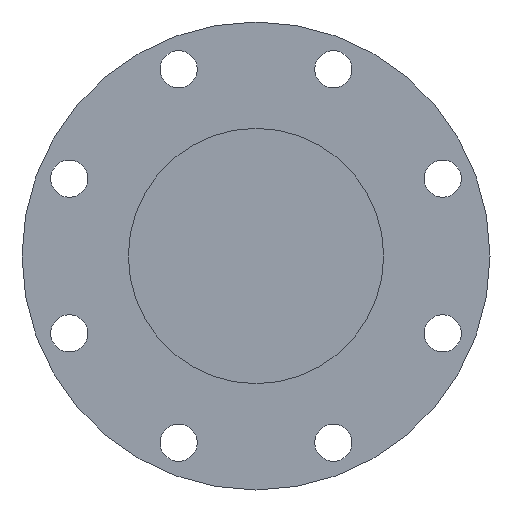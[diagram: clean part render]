
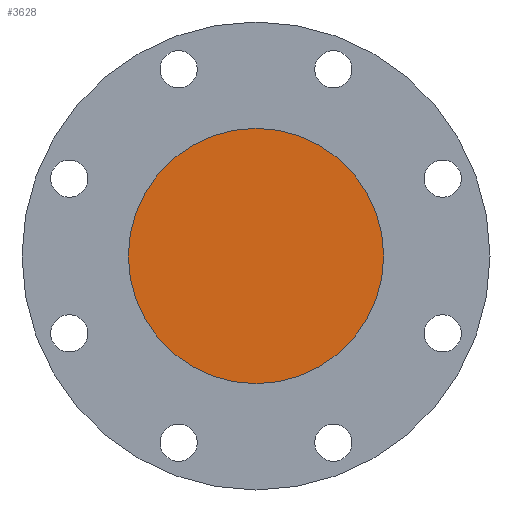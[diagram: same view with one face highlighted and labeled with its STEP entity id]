
A CAD part, left-side view. The second image highlights one B-rep face of the part: STEP entity #3628.
In plain terms, the highlighted planar face has unit normal (-1, 0, 0).
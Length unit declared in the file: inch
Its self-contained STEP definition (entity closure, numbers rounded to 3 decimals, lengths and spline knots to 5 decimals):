
#143 = FACE_OUTER_BOUND ( 'NONE', #6027, .T. ) ;
#728 = CARTESIAN_POINT ( 'NONE',  ( -5.06153, 3.13218, 0. ) ) ;
#961 = AXIS2_PLACEMENT_3D ( 'NONE', #4505, #9942, #1025 ) ;
#1025 = DIRECTION ( 'NONE',  ( 0., 0., -1. ) ) ;
#1772 = CARTESIAN_POINT ( 'NONE',  ( -5.06153, 0., 0. ) ) ;
#3628 = ADVANCED_FACE ( 'NONE', ( #143 ), #6161, .F. ) ;
#3760 = CARTESIAN_POINT ( 'NONE',  ( -5.06153, 3., 0. ) ) ;
#4029 = EDGE_CURVE ( 'NONE', #5497, #10668, #9753, .T. ) ;
#4505 = CARTESIAN_POINT ( 'NONE',  ( -5.06153, 0., 0. ) ) ;
#5253 = AXIS2_PLACEMENT_3D ( 'NONE', #1772, #9900, #7104 ) ;
#5497 = VERTEX_POINT ( 'NONE', #3760 ) ;
#5872 = CIRCLE ( 'NONE', #5253, 3. ) ;
#5887 = ORIENTED_EDGE ( 'NONE', *, *, #4029, .T. ) ;
#6027 = EDGE_LOOP ( 'NONE', ( #10915, #5887 ) ) ;
#6161 = PLANE ( 'NONE',  #9640 ) ;
#7062 = DIRECTION ( 'NONE',  ( 0., 0., -1. ) ) ;
#7104 = DIRECTION ( 'NONE',  ( 0., 0., -1. ) ) ;
#8734 = DIRECTION ( 'NONE',  ( 1., 0., 0. ) ) ;
#9640 = AXIS2_PLACEMENT_3D ( 'NONE', #728, #8734, #7062 ) ;
#9668 = CARTESIAN_POINT ( 'NONE',  ( -5.06153, -3., 0. ) ) ;
#9753 = CIRCLE ( 'NONE', #961, 3. ) ;
#9900 = DIRECTION ( 'NONE',  ( -1., 0., 0. ) ) ;
#9942 = DIRECTION ( 'NONE',  ( -1., 0., 0. ) ) ;
#10668 = VERTEX_POINT ( 'NONE', #9668 ) ;
#10915 = ORIENTED_EDGE ( 'NONE', *, *, #10942, .T. ) ;
#10942 = EDGE_CURVE ( 'NONE', #10668, #5497, #5872, .T. ) ;
